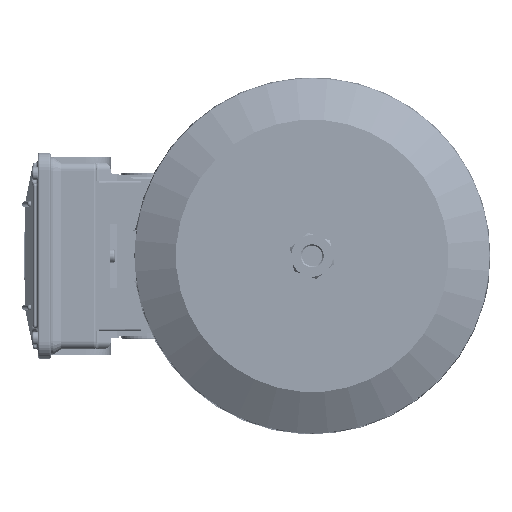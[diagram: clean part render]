
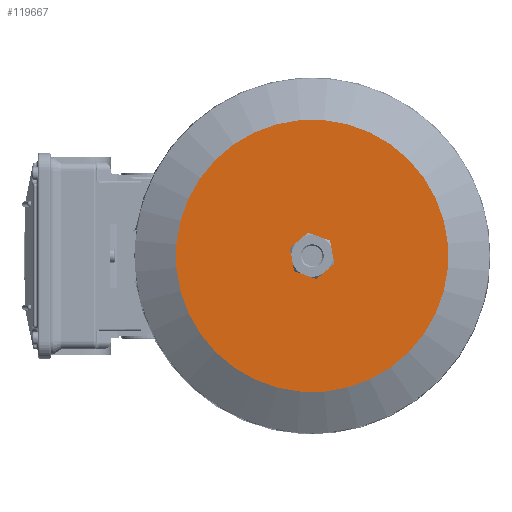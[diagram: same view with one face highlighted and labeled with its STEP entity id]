
A CAD part, left-side view. The second image highlights one B-rep face of the part: STEP entity #119667.
In plain terms, the highlighted planar face has unit normal (-1, 0, 0) as drawn and (0, -1, 0) by its records, which use the part's own axes.
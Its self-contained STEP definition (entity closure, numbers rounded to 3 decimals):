
#2247 = DIRECTION ( 'NONE',  ( 0., 0., 1. ) ) ;
#2640 = ORIENTED_EDGE ( 'NONE', *, *, #4836, .T. ) ;
#4836 = EDGE_CURVE ( 'NONE', #19531, #36377, #65129, .T. ) ;
#4868 = DIRECTION ( 'NONE',  ( 0., 1., 0. ) ) ;
#5942 = AXIS2_PLACEMENT_3D ( 'NONE', #71609, #4868, #82840 ) ;
#7235 = DIRECTION ( 'NONE',  ( 0., -1., 0. ) ) ;
#7464 = ORIENTED_EDGE ( 'NONE', *, *, #92386, .T. ) ;
#12983 = AXIS2_PLACEMENT_3D ( 'NONE', #135806, #68986, #2247 ) ;
#13338 = ORIENTED_EDGE ( 'NONE', *, *, #76039, .F. ) ;
#19531 = VERTEX_POINT ( 'NONE', #132604 ) ;
#22746 = CARTESIAN_POINT ( 'NONE',  ( 0., 0., 0. ) ) ;
#33965 = DIRECTION ( 'NONE',  ( 0., 0., 1. ) ) ;
#34850 = ORIENTED_EDGE ( 'NONE', *, *, #81692, .F. ) ;
#36377 = VERTEX_POINT ( 'NONE', #39740 ) ;
#39440 = CIRCLE ( 'NONE', #5942, 100. ) ;
#39740 = CARTESIAN_POINT ( 'NONE',  ( 0., 0., -13.5 ) ) ;
#41056 = AXIS2_PLACEMENT_3D ( 'NONE', #95506, #7235, #85217 ) ;
#56923 = FACE_OUTER_BOUND ( 'NONE', #142796, .T. ) ;
#58971 = AXIS2_PLACEMENT_3D ( 'NONE', #22746, #100739, #33965 ) ;
#61435 = DIRECTION ( 'NONE',  ( 0., 1., 0. ) ) ;
#65129 = CIRCLE ( 'NONE', #58971, 13.5 ) ;
#68986 = DIRECTION ( 'NONE',  ( 0., 1., 0. ) ) ;
#70800 = AXIS2_PLACEMENT_3D ( 'NONE', #128216, #61435, #139478 ) ;
#71609 = CARTESIAN_POINT ( 'NONE',  ( 0., 0., 0. ) ) ;
#76039 = EDGE_CURVE ( 'NONE', #125769, #122938, #39440, .T. ) ;
#81692 = EDGE_CURVE ( 'NONE', #122938, #125769, #120558, .T. ) ;
#82840 = DIRECTION ( 'NONE',  ( 0., 0., 1. ) ) ;
#83076 = FACE_BOUND ( 'NONE', #141085, .T. ) ;
#85217 = DIRECTION ( 'NONE',  ( 0., 0., -1. ) ) ;
#92386 = EDGE_CURVE ( 'NONE', #36377, #19531, #134156, .T. ) ;
#95506 = CARTESIAN_POINT ( 'NONE',  ( -13.5, 0., 0. ) ) ;
#100739 = DIRECTION ( 'NONE',  ( 0., 1., 0. ) ) ;
#113621 = CARTESIAN_POINT ( 'NONE',  ( 0., 0., 100. ) ) ;
#114651 = CARTESIAN_POINT ( 'NONE',  ( 0., 0., -100. ) ) ;
#119667 = ADVANCED_FACE ( 'NONE', ( #83076, #56923 ), #140872, .T. ) ;
#120558 = CIRCLE ( 'NONE', #70800, 100. ) ;
#122938 = VERTEX_POINT ( 'NONE', #114651 ) ;
#125769 = VERTEX_POINT ( 'NONE', #113621 ) ;
#128216 = CARTESIAN_POINT ( 'NONE',  ( 0., 0., 0. ) ) ;
#132604 = CARTESIAN_POINT ( 'NONE',  ( 0., 0., 13.5 ) ) ;
#134156 = CIRCLE ( 'NONE', #12983, 13.5 ) ;
#135806 = CARTESIAN_POINT ( 'NONE',  ( 0., 0., 0. ) ) ;
#139478 = DIRECTION ( 'NONE',  ( 0., 0., 1. ) ) ;
#140872 = PLANE ( 'NONE',  #41056 ) ;
#141085 = EDGE_LOOP ( 'NONE', ( #2640, #7464 ) ) ;
#142796 = EDGE_LOOP ( 'NONE', ( #13338, #34850 ) ) ;
